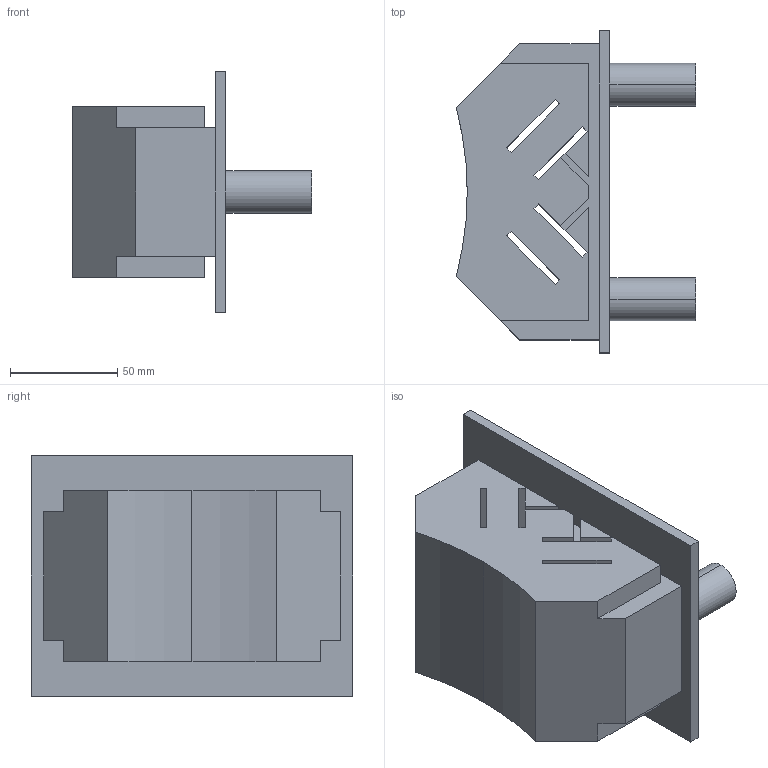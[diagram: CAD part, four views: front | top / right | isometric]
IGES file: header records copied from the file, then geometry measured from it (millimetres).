
Start section: IMSI TurboCAD v14.0
Global section: author: NULL; organization: NULL; date: 20250711.181112; units: millimetre
Bounding box: 111.62 x 150 x 112 mm (x, y, z)
Surface area: 92813.8 mm2 (no closed solid volume)
Topology: 0 solids, 0 shells, 56 faces, 333 edges, 336 vertices
Faces by surface type: extrusion 50, revolution 6
